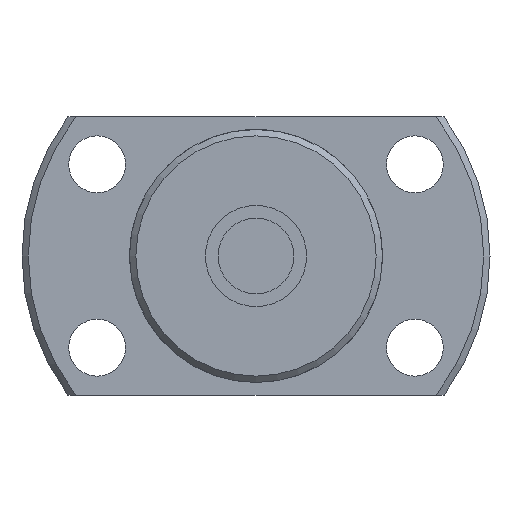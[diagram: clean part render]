
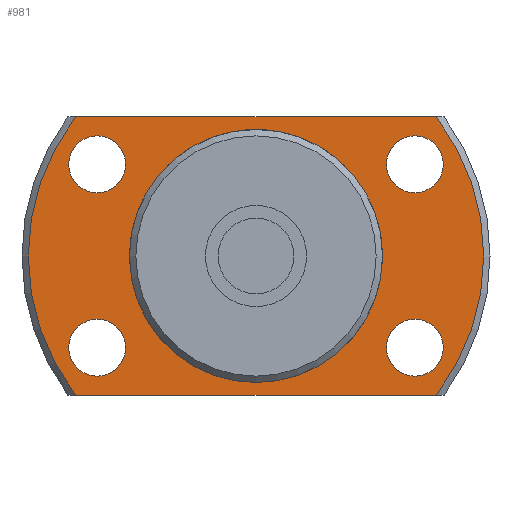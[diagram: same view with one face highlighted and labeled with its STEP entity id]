
A CAD part, left-side view. The second image highlights one B-rep face of the part: STEP entity #981.
In plain terms, the highlighted planar face has unit normal (-1, 0, 0).
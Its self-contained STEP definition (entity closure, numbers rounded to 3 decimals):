
#105=LINE('',#1717,#147);
#106=LINE('',#1721,#148);
#147=VECTOR('',#1371,1000.);
#148=VECTOR('',#1374,1000.);
#282=ORIENTED_EDGE('',*,*,#490,.T.);
#283=ORIENTED_EDGE('',*,*,#491,.T.);
#284=ORIENTED_EDGE('',*,*,#492,.T.);
#285=ORIENTED_EDGE('',*,*,#493,.T.);
#286=ORIENTED_EDGE('',*,*,#479,.F.);
#287=ORIENTED_EDGE('',*,*,#494,.F.);
#288=ORIENTED_EDGE('',*,*,#495,.F.);
#289=ORIENTED_EDGE('',*,*,#496,.F.);
#290=ORIENTED_EDGE('',*,*,#473,.T.);
#473=EDGE_CURVE('',#588,#588,#663,.T.);
#479=EDGE_CURVE('',#593,#594,#666,.T.);
#490=EDGE_CURVE('',#603,#603,#672,.T.);
#491=EDGE_CURVE('',#604,#604,#673,.T.);
#492=EDGE_CURVE('',#605,#605,#674,.T.);
#493=EDGE_CURVE('',#606,#606,#675,.T.);
#494=EDGE_CURVE('',#607,#593,#105,.T.);
#495=EDGE_CURVE('',#608,#607,#676,.T.);
#496=EDGE_CURVE('',#594,#608,#106,.T.);
#588=VERTEX_POINT('',#1660);
#593=VERTEX_POINT('',#1674);
#594=VERTEX_POINT('',#1676);
#603=VERTEX_POINT('',#1710);
#604=VERTEX_POINT('',#1712);
#605=VERTEX_POINT('',#1714);
#606=VERTEX_POINT('',#1716);
#607=VERTEX_POINT('',#1718);
#608=VERTEX_POINT('',#1720);
#663=CIRCLE('',#1106,9.85);
#666=CIRCLE('',#1110,18.);
#672=CIRCLE('',#1121,2.25);
#673=CIRCLE('',#1122,2.25);
#674=CIRCLE('',#1123,2.25);
#675=CIRCLE('',#1124,2.25);
#676=CIRCLE('',#1125,18.);
#750=EDGE_LOOP('',(#282));
#751=EDGE_LOOP('',(#283));
#752=EDGE_LOOP('',(#284));
#753=EDGE_LOOP('',(#285));
#754=EDGE_LOOP('',(#286,#287,#288,#289));
#755=EDGE_LOOP('',(#290));
#860=FACE_BOUND('',#750,.T.);
#861=FACE_BOUND('',#751,.T.);
#862=FACE_BOUND('',#752,.T.);
#863=FACE_BOUND('',#753,.T.);
#864=FACE_BOUND('',#754,.T.);
#865=FACE_BOUND('',#755,.T.);
#927=PLANE('',#1120);
#981=ADVANCED_FACE('',(#860,#861,#862,#863,#864,#865),#927,.F.);
#1106=AXIS2_PLACEMENT_3D('',#1659,#1329,#1330);
#1110=AXIS2_PLACEMENT_3D('',#1675,#1339,#1340);
#1120=AXIS2_PLACEMENT_3D('',#1708,#1361,#1362);
#1121=AXIS2_PLACEMENT_3D('',#1709,#1363,#1364);
#1122=AXIS2_PLACEMENT_3D('',#1711,#1365,#1366);
#1123=AXIS2_PLACEMENT_3D('',#1713,#1367,#1368);
#1124=AXIS2_PLACEMENT_3D('',#1715,#1369,#1370);
#1125=AXIS2_PLACEMENT_3D('',#1719,#1372,#1373);
#1329=DIRECTION('',(1.,0.,0.));
#1330=DIRECTION('',(0.,0.,-1.));
#1339=DIRECTION('',(1.,0.,0.));
#1340=DIRECTION('',(0.,0.,-1.));
#1361=DIRECTION('',(1.,0.,0.));
#1362=DIRECTION('',(0.,0.,-1.));
#1363=DIRECTION('',(1.,0.,0.));
#1364=DIRECTION('',(0.,0.,-1.));
#1365=DIRECTION('',(1.,0.,0.));
#1366=DIRECTION('',(0.,0.,-1.));
#1367=DIRECTION('',(1.,0.,0.));
#1368=DIRECTION('',(0.,0.,-1.));
#1369=DIRECTION('',(1.,0.,0.));
#1370=DIRECTION('',(0.,0.,-1.));
#1371=DIRECTION('',(0.,1.,0.));
#1372=DIRECTION('',(1.,0.,0.));
#1373=DIRECTION('',(0.,0.,-1.));
#1374=DIRECTION('',(0.,-1.,0.));
#1659=CARTESIAN_POINT('',(19.,0.,0.));
#1660=CARTESIAN_POINT('',(19.,0.,-9.85));
#1674=CARTESIAN_POINT('',(19.,14.248,-11.));
#1675=CARTESIAN_POINT('',(19.,0.,0.));
#1676=CARTESIAN_POINT('',(19.,14.248,11.));
#1708=CARTESIAN_POINT('',(19.,9.85,0.));
#1709=CARTESIAN_POINT('',(19.,-12.557,-7.25));
#1710=CARTESIAN_POINT('',(19.,-12.557,-9.5));
#1711=CARTESIAN_POINT('',(19.,-12.557,7.25));
#1712=CARTESIAN_POINT('',(19.,-12.557,5.));
#1713=CARTESIAN_POINT('',(19.,12.557,-7.25));
#1714=CARTESIAN_POINT('',(19.,12.557,-9.5));
#1715=CARTESIAN_POINT('',(19.,12.557,7.25));
#1716=CARTESIAN_POINT('',(19.,12.557,5.));
#1717=CARTESIAN_POINT('',(19.,-23.5,-11.));
#1718=CARTESIAN_POINT('',(19.,-14.248,-11.));
#1719=CARTESIAN_POINT('',(19.,0.,0.));
#1720=CARTESIAN_POINT('',(19.,-14.248,11.));
#1721=CARTESIAN_POINT('',(19.,23.5,11.));
